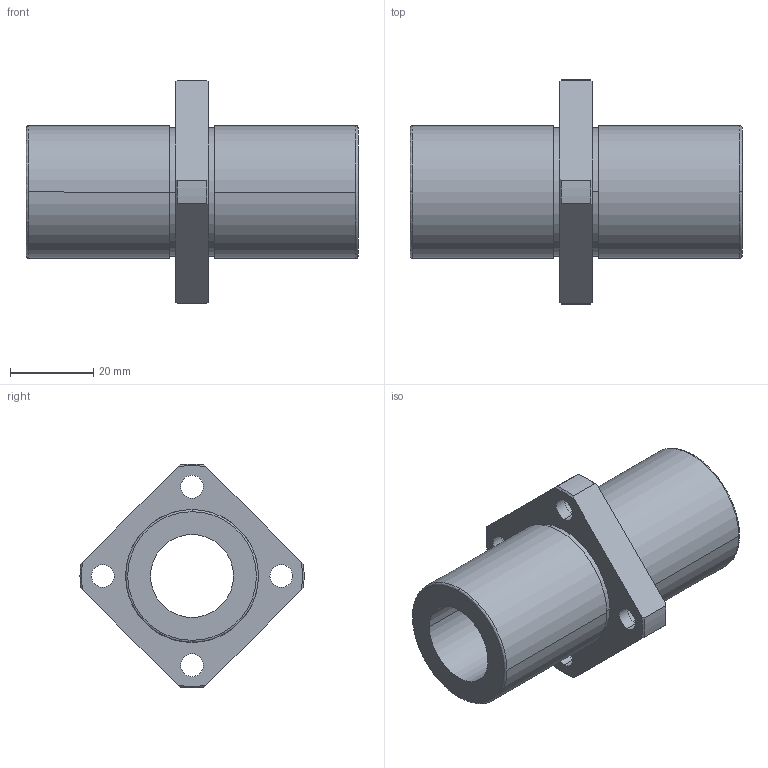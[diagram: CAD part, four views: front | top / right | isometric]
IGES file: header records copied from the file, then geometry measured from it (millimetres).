
Start section: 3D InterOp IGES (Version 21 0 1), Spatial Corp. Copyright (c) 1999-2007.
Global section: file name: NFCS-20VLUU.igs; native system: Spatial Corp.; preprocessor: 3D InterOp GENERIC/IGES 3.0; author: Noname; organization: Noname; date: 20220308.133554; units: millimetre
Bounding box: 80 x 53.98 x 53.97 mm (x, y, z)
Surface area: 17093 mm2 (no closed solid volume)
Topology: 0 solids, 0 shells, 59 faces, 292 edges, 292 vertices
Faces by surface type: revolution 45, extrusion 14
